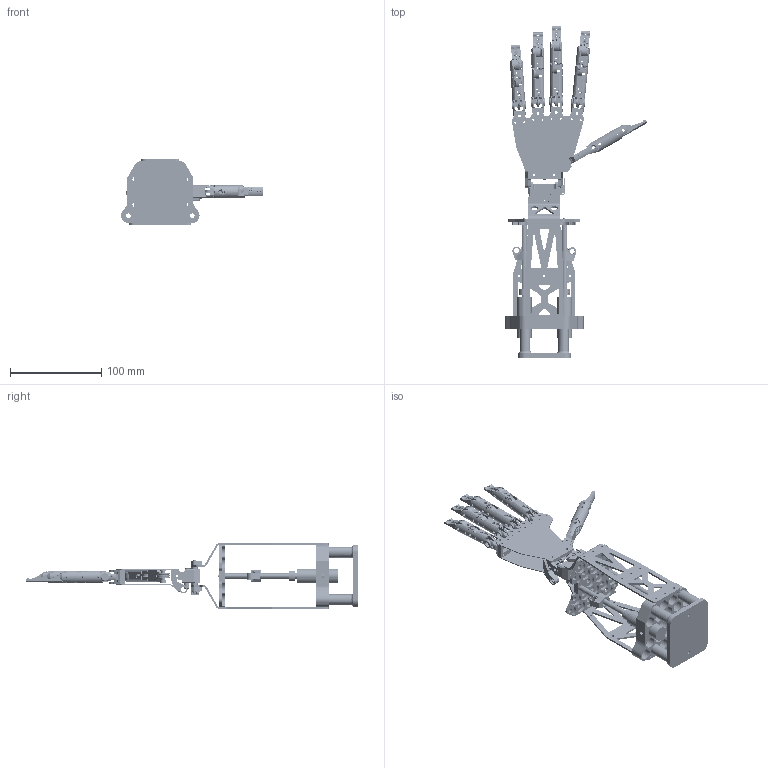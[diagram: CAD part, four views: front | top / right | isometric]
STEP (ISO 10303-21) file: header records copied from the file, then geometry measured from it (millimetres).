
FILE_DESCRIPTION (( 'STEP AP214' ), '1' );
FILE_NAME ('Hand_Full.STEP', '2026-09-22T14:55:11', ( '' ), ( '' ), 'SwSTEP 2.0', 'SolidWorks 2022', '' );
FILE_SCHEMA (( 'AUTOMOTIVE_DESIGN' ));
Length unit declared in the file: millimetre
Products named in the file (19): Proximal_Phalanx_Pointer; Hand_Full; Palm; Proximal_Phalanx_Thumb; Proximal_Phalanx_2; Fingertip_Thumb; stand; Fingertip; Proximal_Phalanx_Middle; Proximal_Phalanx_Pinky; Thumb_Rotor; Wrist_1; Base; Midle_Phalanx_Middle; Proximal_Phalanx_Thumb_x; Midle_Phalanx_Pointer; Proximal_Phalanx_Index; Midle_Phalanx_Pinky; Midle_Phalanx_Index
Assembly tree (24 placements, depth 2):
  Hand_Full
    Base
    Wrist_1
    stand
    Palm
    Proximal_Phalanx_2  x4
    Thumb_Rotor
    Proximal_Phalanx_Thumb_x
    Proximal_Phalanx_Thumb
    Proximal_Phalanx_Pointer
    Proximal_Phalanx_Middle
    Proximal_Phalanx_Index
    Proximal_Phalanx_Pinky
    Midle_Phalanx_Pinky
    Midle_Phalanx_Index
    Midle_Phalanx_Middle
    Midle_Phalanx_Pointer
    Fingertip  x4
    Fingertip_Thumb
Bounding box: 155.42 x 363.75 x 71.91 mm (x, y, z)
Volume: 188554.5 mm3; surface area: 162951.7 mm2
Topology: 60 solids, 60 shells, 4676 faces, 12809 edges, 8299 vertices
Faces by surface type: cylinder 2485, plane 1617, torus 261, bspline 230, sphere 43, cone 40
Entity records: 167551 total; most frequent: CARTESIAN_POINT 38671, ORIENTED_EDGE 22026, DIRECTION 21897, EDGE_CURVE 11013, AXIS2_PLACEMENT_3D 8407, VERTEX_POINT 7158, VECTOR 5083, LINE 5083
